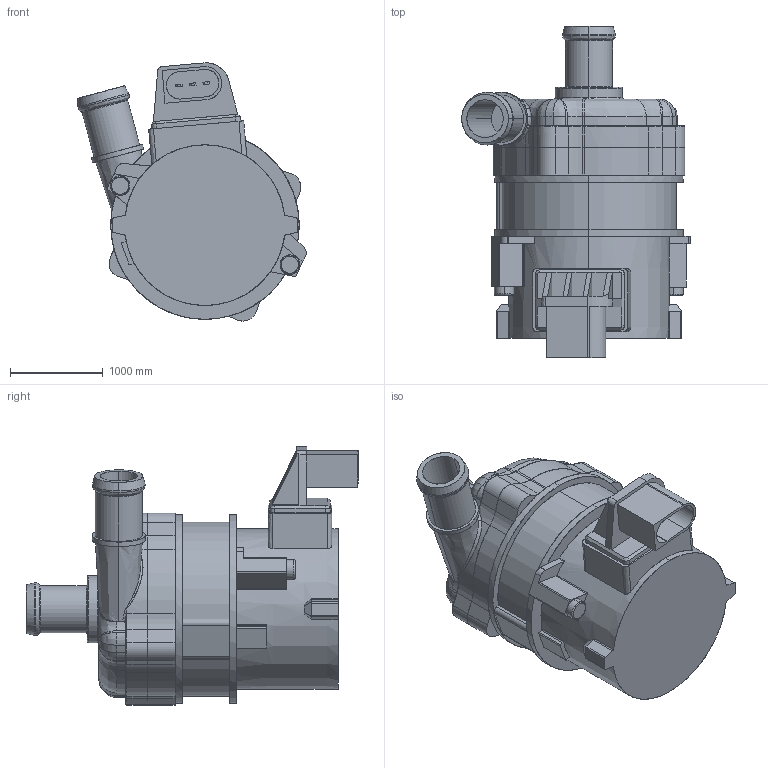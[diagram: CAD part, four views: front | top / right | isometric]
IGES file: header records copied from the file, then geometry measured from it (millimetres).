
Start section: Tecomotive IGES file using analytic representation for surfaces
Global section: native system: Tecomotive 2020; preprocessor: Tecomotive 2020; author:          ; date: 201201.182337; units: millimetre
Bounding box: 2465.68 x 3581.4 x 2784.72 mm (x, y, z)
Surface area: 33838778.2 mm2 (no closed solid volume)
Topology: 0 solids, 0 shells, 418 faces, 4411 edges, 4407 vertices
Faces by surface type: bspline 235, revolution 183
